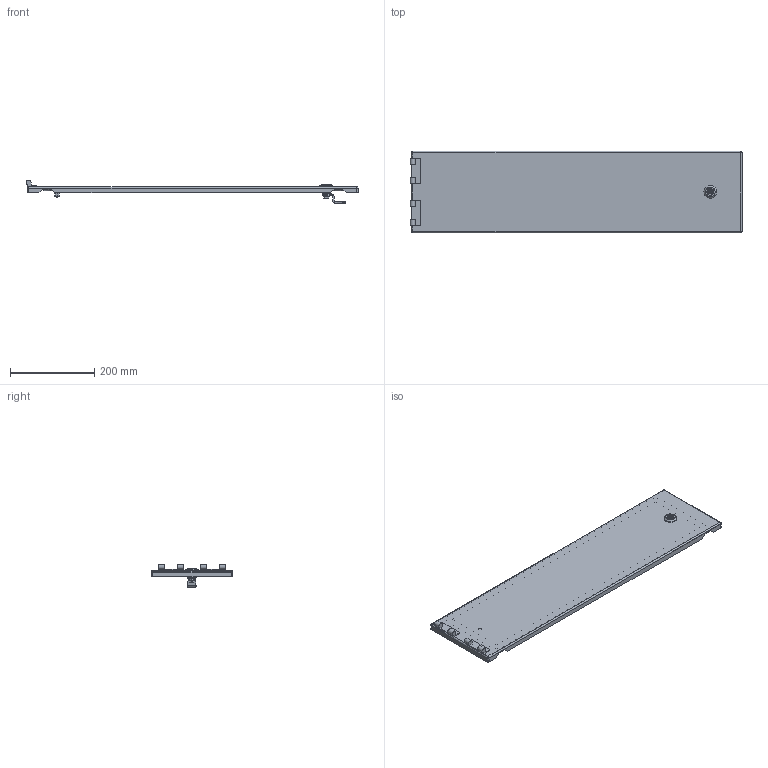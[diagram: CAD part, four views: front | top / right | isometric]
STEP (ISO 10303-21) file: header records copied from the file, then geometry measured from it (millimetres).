
FILE_DESCRIPTION (( 'STEP AP214' ), '1' );
FILE_NAME ('D 20.80 M Äâåðü ñåêöèîííàÿ ãëóõàÿ.STEP', '2016-10-10T06:58:54', ( '' ), ( '' ), 'SwSTEP 2.0', 'SolidWorks 2012', '' );
FILE_SCHEMA (( 'AUTOMOTIVE_DESIGN' ));
Length unit declared in the file: millimetre
Products named in the file (1): D 20.80 M Äâåðü ñåêöèîííàÿ ãëóõàÿ
Bounding box: 788.2 x 194 x 56.33 mm (x, y, z)
Volume: 552082.5 mm3; surface area: 438112.9 mm2
Topology: 7 solids, 7 shells, 341 faces, 864 edges, 542 vertices
Faces by surface type: plane 159, cylinder 114, cone 36, torus 13, bspline 11, sphere 8
Entity records: 10952 total; most frequent: CARTESIAN_POINT 2504, DIRECTION 1730, ORIENTED_EDGE 1712, EDGE_CURVE 856, AXIS2_PLACEMENT_3D 624, VERTEX_POINT 542, LINE 482, VECTOR 482
